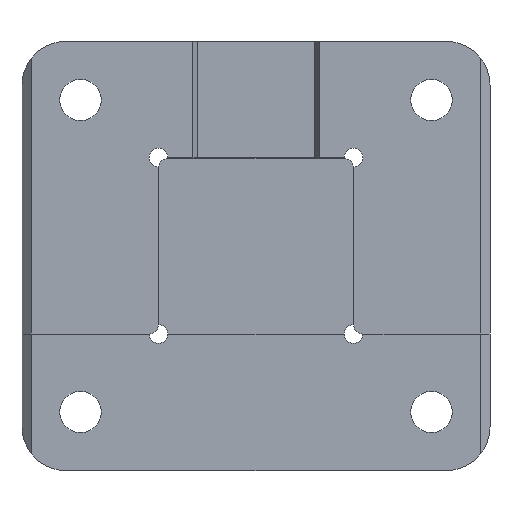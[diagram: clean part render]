
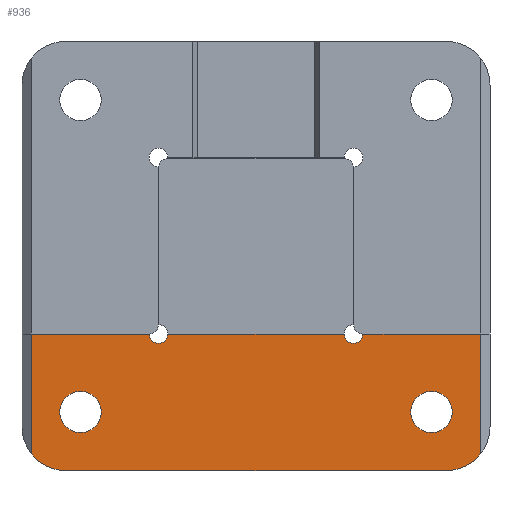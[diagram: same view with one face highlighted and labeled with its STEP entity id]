
A CAD part, front view. The second image highlights one B-rep face of the part: STEP entity #936.
In plain terms, the highlighted planar face has unit normal (0, -1, 0).
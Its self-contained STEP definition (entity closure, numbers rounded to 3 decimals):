
#38=PLANE('',#1026);
#71=CIRCLE('',#1012,1.524);
#77=CIRCLE('',#1024,1.524);
#79=CIRCLE('',#1027,3.378);
#80=CIRCLE('',#1028,3.378);
#81=CIRCLE('',#1029,7.137);
#82=CIRCLE('',#1030,7.137);
#143=ORIENTED_EDGE('',*,*,#397,.F.);
#144=ORIENTED_EDGE('',*,*,#398,.F.);
#145=ORIENTED_EDGE('',*,*,#399,.F.);
#146=ORIENTED_EDGE('',*,*,#400,.T.);
#147=ORIENTED_EDGE('',*,*,#401,.F.);
#148=ORIENTED_EDGE('',*,*,#394,.T.);
#149=ORIENTED_EDGE('',*,*,#402,.F.);
#150=ORIENTED_EDGE('',*,*,#376,.T.);
#151=ORIENTED_EDGE('',*,*,#403,.F.);
#152=ORIENTED_EDGE('',*,*,#404,.F.);
#153=ORIENTED_EDGE('',*,*,#405,.F.);
#154=ORIENTED_EDGE('',*,*,#406,.F.);
#376=EDGE_CURVE('',#501,#506,#71,.T.);
#394=EDGE_CURVE('',#519,#518,#77,.T.);
#397=EDGE_CURVE('',#521,#521,#79,.T.);
#398=EDGE_CURVE('',#522,#522,#80,.T.);
#399=EDGE_CURVE('',#523,#524,#81,.T.);
#400=EDGE_CURVE('',#523,#525,#609,.T.);
#401=EDGE_CURVE('',#519,#525,#610,.T.);
#402=EDGE_CURVE('',#501,#518,#611,.T.);
#403=EDGE_CURVE('',#526,#506,#612,.T.);
#404=EDGE_CURVE('',#527,#526,#613,.T.);
#405=EDGE_CURVE('',#528,#527,#82,.T.);
#406=EDGE_CURVE('',#524,#528,#614,.T.);
#501=VERTEX_POINT('',#1404);
#506=VERTEX_POINT('',#1413);
#518=VERTEX_POINT('',#1449);
#519=VERTEX_POINT('',#1451);
#521=VERTEX_POINT('',#1457);
#522=VERTEX_POINT('',#1459);
#523=VERTEX_POINT('',#1461);
#524=VERTEX_POINT('',#1462);
#525=VERTEX_POINT('',#1464);
#526=VERTEX_POINT('',#1468);
#527=VERTEX_POINT('',#1470);
#528=VERTEX_POINT('',#1472);
#609=LINE('',#1463,#693);
#610=LINE('',#1465,#694);
#611=LINE('',#1466,#695);
#612=LINE('',#1467,#696);
#613=LINE('',#1469,#697);
#614=LINE('',#1473,#698);
#693=VECTOR('',#1171,1000.);
#694=VECTOR('',#1172,1000.);
#695=VECTOR('',#1173,1000.);
#696=VECTOR('',#1174,1000.);
#697=VECTOR('',#1175,1000.);
#698=VECTOR('',#1178,1000.);
#768=EDGE_LOOP('',(#143));
#769=EDGE_LOOP('',(#144));
#770=EDGE_LOOP('',(#145,#146,#147,#148,#149,#150,#151,#152,#153,#154));
#842=FACE_BOUND('',#768,.T.);
#843=FACE_BOUND('',#769,.T.);
#844=FACE_BOUND('',#770,.T.);
#936=ADVANCED_FACE('',(#842,#843,#844),#38,.F.);
#1012=AXIS2_PLACEMENT_3D('',#1414,#1122,#1123);
#1024=AXIS2_PLACEMENT_3D('',#1450,#1158,#1159);
#1026=AXIS2_PLACEMENT_3D('',#1455,#1163,#1164);
#1027=AXIS2_PLACEMENT_3D('',#1456,#1165,#1166);
#1028=AXIS2_PLACEMENT_3D('',#1458,#1167,#1168);
#1029=AXIS2_PLACEMENT_3D('',#1460,#1169,#1170);
#1030=AXIS2_PLACEMENT_3D('',#1471,#1176,#1177);
#1122=DIRECTION('',(0.,1.,0.));
#1123=DIRECTION('',(1.,0.,0.));
#1158=DIRECTION('',(0.,1.,0.));
#1159=DIRECTION('',(1.,0.,0.));
#1163=DIRECTION('',(0.,1.,0.));
#1164=DIRECTION('',(0.,0.,1.));
#1165=DIRECTION('',(0.,-1.,0.));
#1166=DIRECTION('',(0.,0.,-1.));
#1167=DIRECTION('',(0.,-1.,0.));
#1168=DIRECTION('',(0.,0.,-1.));
#1169=DIRECTION('',(0.,1.,0.));
#1170=DIRECTION('',(1.,0.,0.));
#1171=DIRECTION('',(0.,0.,1.));
#1172=DIRECTION('',(1.,0.,0.));
#1173=DIRECTION('',(1.,0.,0.));
#1174=DIRECTION('',(1.,0.,0.));
#1175=DIRECTION('',(0.,0.,1.));
#1176=DIRECTION('',(0.,1.,0.));
#1177=DIRECTION('',(1.,0.,0.));
#1178=DIRECTION('',(-1.,0.,0.));
#1404=CARTESIAN_POINT('',(-14.351,0.,0.));
#1413=CARTESIAN_POINT('',(-17.399,0.,0.));
#1414=CARTESIAN_POINT('',(-15.875,0.,0.));
#1449=CARTESIAN_POINT('',(14.351,0.,0.));
#1450=CARTESIAN_POINT('',(15.875,0.,0.));
#1451=CARTESIAN_POINT('',(17.399,0.,0.));
#1455=CARTESIAN_POINT('',(-30.963,0.,-15.088));
#1456=CARTESIAN_POINT('',(-28.575,0.,-12.7));
#1457=CARTESIAN_POINT('',(-28.575,0.,-16.078));
#1458=CARTESIAN_POINT('',(28.575,0.,-12.7));
#1459=CARTESIAN_POINT('',(28.575,0.,-16.078));
#1460=CARTESIAN_POINT('',(30.963,0.,-15.088));
#1461=CARTESIAN_POINT('',(36.576,0.,-19.496));
#1462=CARTESIAN_POINT('',(30.963,0.,-22.225));
#1463=CARTESIAN_POINT('',(36.576,0.,-22.225));
#1464=CARTESIAN_POINT('',(36.576,0.,0.));
#1465=CARTESIAN_POINT('',(17.399,0.,0.));
#1466=CARTESIAN_POINT('',(-30.963,0.,0.));
#1467=CARTESIAN_POINT('',(-38.1,0.,0.));
#1468=CARTESIAN_POINT('',(-36.576,0.,0.));
#1469=CARTESIAN_POINT('',(-36.576,0.,-22.225));
#1470=CARTESIAN_POINT('',(-36.576,0.,-19.496));
#1471=CARTESIAN_POINT('',(-30.963,0.,-15.088));
#1472=CARTESIAN_POINT('',(-30.963,0.,-22.225));
#1473=CARTESIAN_POINT('',(30.963,0.,-22.225));
